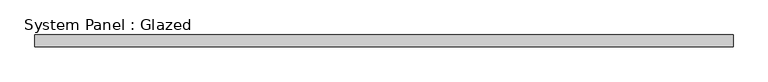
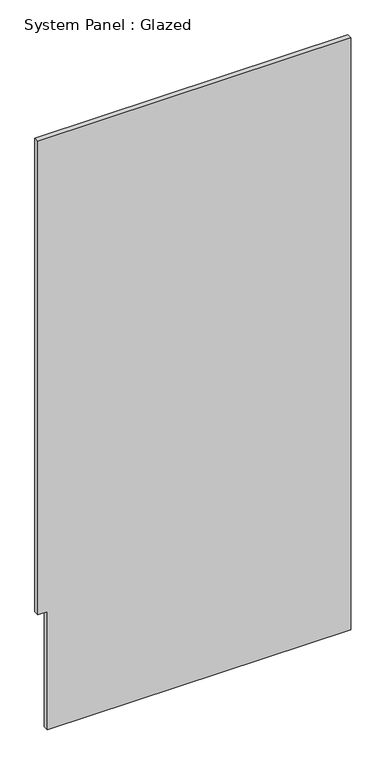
"""IFC4 building model written with IfcOpenShell, lengths in millimetres: plate geometry, System Panel : Glazed."""

from ifc_helpers import new_model, si_unit, frame, origin, place, context, project, spatial, polyline, outline, extrude, source, transform, mapped, element, save


def system_panel_glazed_bfb795b8(model_context):
    return source(origin(), model_context, "Body", "SweptSolid", [
        extrude(outline(polyline([(0.0, -715.790466), (0.0, 762.0), (3048.0, 762.0), (3048.0, -762.0), (609.6, -762.0), (609.6, -715.790466), (0.0, -715.790466)])), frame((0.0, -44.45, 0.0), z_axis=(0.0, 1.0, 0.0), x_axis=(0.0, 0.0, 1.0)), (0.0, 0.0, 1.0), 25.4),
    ])


if __name__ == "__main__":
    model = new_model("IFC4")
    model_context = context("Model", 3, world=origin())
    ifc_project = project(units=[si_unit("LENGTHUNIT", "METRE", prefix="MILLI")], contexts=[model_context])
    site = spatial("IfcSite", under=ifc_project)
    building = spatial("IfcBuilding", under=site)
    placement = place(None, origin())
    system_panel_glazed_shape = system_panel_glazed_bfb795b8(model_context)
    element("IfcPlate", 1, ObjectType="System Panel : Glazed", at=placement, inside=building, context=model_context, shape_type="MappedRepresentation", body=[
        mapped(system_panel_glazed_shape, transform((0.0, 0.0, 0.0), x_axis=(1.0, 0.0, 0.0), y_axis=(0.0, 1.0, 0.0), z_axis=(0.0, 0.0, 1.0))),
    ])
    save(model, "model.ifc")
